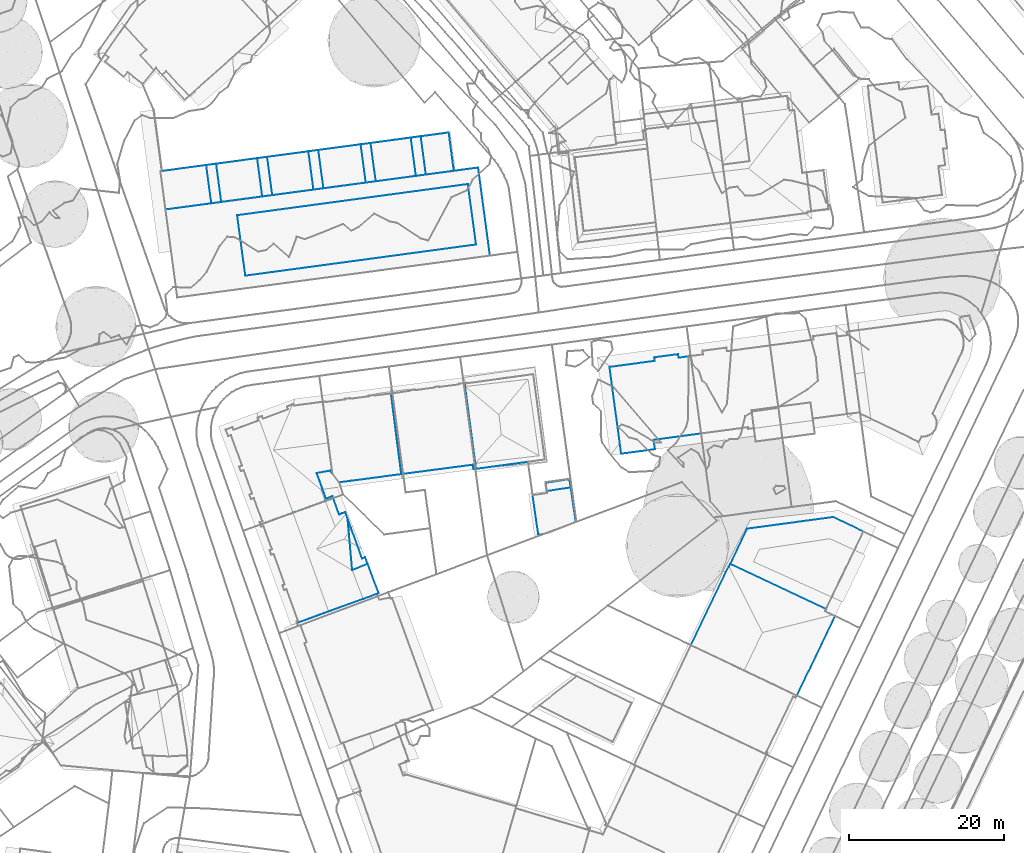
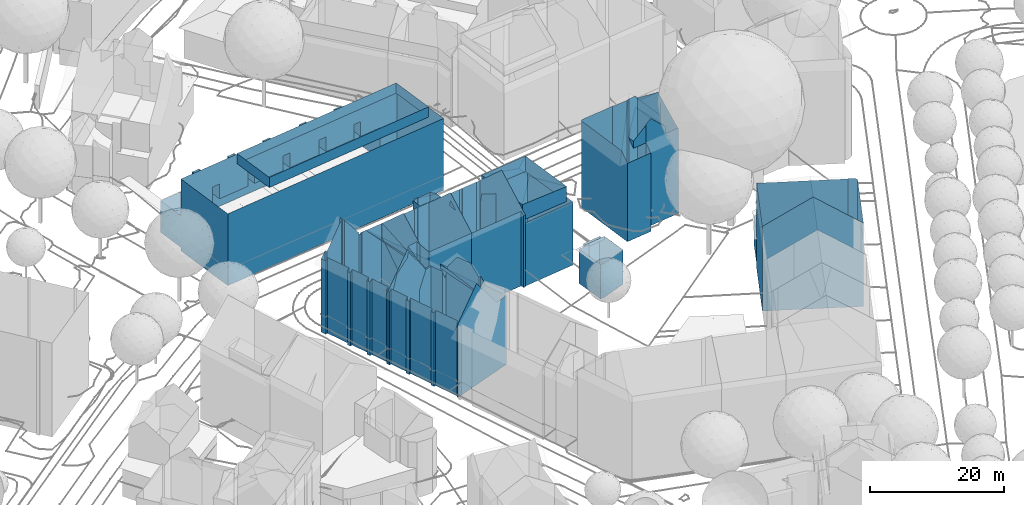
# Not in any storey, part 42 of 494: 9 walls.
"""IFC2X3 model written with IfcOpenShell, lengths in metres."""

from ifc_helpers import new_model, si_unit, frame, origin_with_axes, place, context, subcontext, project, faceted_brep, element, save


model = new_model("IFC2X3")

# Units and contexts
model_context = context("Model", 3, precision=1e-05, world=origin_with_axes())
body_context = subcontext(model_context, "Body", "Model", "MODEL_VIEW")
ifc_project = project(units=[si_unit("AREAUNIT", "SQUARE_METRE"), si_unit("LENGTHUNIT", "METRE")], contexts=[model_context])

# Walls
wall_1_placement = place(None, frame((511.1767320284, 156.3465160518, 499.6435), z_axis=(0.0, 0.0, 1.0), x_axis=(1.0, 0.0, 0.0)))
element("IfcWall", 1, at=wall_1_placement, Name="Wall 0", context=body_context, shape_type="Brep", body=[
    faceted_brep([(4.7589999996, 2.067400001, 5.7095), (4.936999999, 0.9834000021, 5.7095), (4.7589999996, 2.067400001, 0.0), (1.6939999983, 1.5859000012, 5.7095), (1.6939999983, 1.5859000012, 0.0), (5.5879999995, -3.4745999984, 6.2974), (1.3649999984, -5.058600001, 6.2974), (5.5879999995, -3.4745999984, 0.0), (4.936999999, 0.9834000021, 6.2974), (4.936999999, 0.9834000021, 0.0), (0.0, 0.0, 6.2974), (1.8829999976, 0.2714999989, 6.2974), (0.0, 0.0, 0.0), (0.7419999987, -5.1475000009, 6.2974), (0.7419999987, -5.1475000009, 0.0), (1.3649999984, -5.058600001, 0.0), (1.8449999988, 0.5322000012, 6.2974), (1.8449999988, 0.5322000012, 5.7095), (1.8829999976, 0.2714999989, 0.0), (1.8469999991, 0.5243999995, 0.0), (1.8449999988, 0.5322000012, 0.0)], [[[0, 1, 2]], [[3, 0, 4]], [[5, 6, 7]], [[1, 8, 5]], [[1, 7, 9]], [[10, 11, 12]], [[13, 10, 14]], [[6, 13, 15]], [[16, 8, 17]], [[11, 17, 18]], [[17, 11, 16]], [[19, 18, 17]], [[17, 20, 19]], [[3, 20, 17]], [[4, 20, 3]], [[1, 9, 2]], [[0, 2, 4]], [[6, 15, 7]], [[5, 7, 1]], [[11, 18, 12]], [[10, 12, 14]], [[13, 14, 15]], [[8, 1, 17]]]),
])
wall_2_placement = place(None, frame((521.1327320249, 172.9256160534, 499.9965), z_axis=(0.0, 0.0, 1.0), x_axis=(1.0, 0.0, 0.0)))
element("IfcWall", 2, at=wall_2_placement, Name="Wall 0", context=body_context, shape_type="Brep", body=[
    faceted_brep([(9.2630000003, -7.7666000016, 16.8814), (9.4190000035, -8.933600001, 16.8814), (9.4190000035, -8.933600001, 15.6275), (3.3460000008, -9.8164000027, 16.8814), (3.1810000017, -8.5811000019, 16.8814), (3.3460000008, -9.8164000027, 15.5525), (5.7130000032, -9.5020000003, 15.5515), (5.7130000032, -9.5020000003, 18.8402), (5.8660000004, -10.6377000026, 14.3306), (1.4970000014, -11.2217000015, 14.3306), (5.8660000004, -10.6377000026, 0.0), (8.9310000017, 1.2010999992, 3.9956), (8.9310000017, 1.2010999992, 0.0), (8.870000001, 1.6561999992, 15.4745), (8.870000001, 1.6561999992, 0.0), (5.7780000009, 1.2412, 15.4765), (5.7780000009, 1.2412, 0.0), (5.7040000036, -9.4326000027, 18.8402), (5.7040000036, -9.4326000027, 15.6235), (5.7130000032, -9.5020000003, 0.0), (5.7040000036, -9.4326000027, 0.0), (1.325000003, -9.9365000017, 0.0), (1.4970000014, -11.2217000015, 0.0), (0.0, 0.0, 15.8225), (0.0, 0.0, 0.0), (1.3120000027, -9.8368999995, 15.8195), (10.0990000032, 1.3583999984, 15.9835), (10.4960000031, 1.4111000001, 15.5445), (10.4960000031, 1.4111000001, 15.4685), (8.9310000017, 1.2011999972, 15.9845), (10.4960000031, 1.4111000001, 0.0), (10.0990000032, 1.3583999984, 0.0), (5.8390000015, 0.7850999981, 15.9875), (0.1640000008, 0.0223999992, 15.9915), (5.8390000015, 0.7850999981, 0.0), (11.8110000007, -8.3280999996, 15.5305), (11.8490000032, -8.6064999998, 15.5295), (11.1740000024, -3.6064999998, 0.0), (11.8490000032, -8.6064999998, 0.0), (10.5090000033, 1.3134999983, 15.5445), (11.1740000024, -3.6064999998, 19.3361), (11.7590000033, -8.6192000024, 15.6295), (6.6170000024, -9.3095999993, 19.5961), (6.6170000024, -9.3095999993, 0.0)], [[[0, 1, 2]], [[3, 4, 5]], [[6, 7, 5]], [[3, 5, 7]], [[8, 9, 10]], [[11, 12, 13]], [[13, 12, 14]], [[15, 13, 16]], [[16, 13, 14]], [[17, 7, 18]], [[18, 7, 6]], [[6, 8, 19]], [[19, 20, 18]], [[19, 8, 10]], [[19, 18, 6]], [[21, 22, 9]], [[23, 24, 21]], [[9, 25, 23]], [[9, 23, 21]], [[26, 27, 28]], [[28, 29, 26]], [[11, 29, 30]], [[11, 31, 12]], [[31, 11, 30]], [[29, 28, 30]], [[32, 24, 23]], [[23, 33, 32]], [[32, 34, 24]], [[28, 35, 30]], [[36, 37, 30]], [[36, 38, 37]], [[28, 27, 39]], [[39, 40, 35]], [[36, 30, 35]], [[35, 28, 39]], [[2, 36, 41]], [[2, 38, 36]], [[2, 1, 18]], [[18, 1, 42]], [[18, 42, 17]], [[2, 18, 43]], [[18, 20, 43]], [[2, 43, 38]], [[9, 22, 10]], [[29, 11, 13]], [[32, 16, 34]], [[15, 16, 32]]]),
])
wall_3_placement = place(None, frame((463.0307320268, 198.249816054, 500.4205), z_axis=(0.0, 0.0, 1.0), x_axis=(1.0, 0.0, 0.0)))
element("IfcWall", 3, at=wall_3_placement, Name="Wall 0", context=body_context, shape_type="Brep", body=[
    faceted_brep([(42.6259999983, -10.9238000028, 12.5258), (2.1889999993, -16.3369000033, 12.5258), (42.6259999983, -10.9238000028, -0.615), (41.1009999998, 0.4667999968, 12.5258), (41.1009999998, 0.4667999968, -0.6149), (37.300999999, 5.0058999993, 5.7815), (37.9649999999, 0.0468999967, 5.7815), (37.300999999, 5.0058999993, 0.0), (6.5870000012, -4.1562000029, 0.0), (5.9239999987, 0.7949000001, -0.041), (6.5870000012, -4.1562000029, -0.041), (6.5870000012, -4.1562000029, 8.4932), (5.9239999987, 0.7949000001, 8.4932), (6.5870000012, -4.1562000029, 5.7815), (7.2129999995, 0.9677999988, 8.4932), (7.8759999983, -3.9834000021, 5.7815), (7.2129999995, 0.9677999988, 5.7815), (7.2129999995, 0.9677999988, 0.0), (7.8759999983, -3.9834000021, 0.0), (7.2129999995, 0.9677999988, -0.041), (13.1790000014, -3.2734000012, 0.0002), (12.5159999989, 1.6796999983, 0.0002), (13.1790000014, -3.2734000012, -0.0108), (13.1790000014, -3.2734000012, 8.4932), (12.5159999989, 1.6796999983, 5.7815), (13.1790000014, -3.2734000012, 5.7815), (13.8040000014, 1.8524999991, 8.4932), (14.4679999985, -3.1006000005, 8.4932), (13.8040000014, 1.8524999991, 5.7815), (13.8040000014, 1.8524999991, 0.0), (14.4679999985, -3.1006000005, -0.011), (13.8040000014, 1.8524999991, -0.011), (40.8319999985, -9.4853000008, -0.6149), (10.9860000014, -13.5215000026, -0.6149), (40.8319999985, -9.4853000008, -0.6539), (40.8319999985, -9.4853000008, 14.3936), (10.9860000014, -13.5215000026, 14.3936), (40.8319999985, -9.4853000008, 12.5258), (39.7729999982, -1.6601999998, -0.6149), (39.7729999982, -1.6601999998, -0.6539), (39.7729999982, -1.6601999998, 14.3936), (39.7729999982, -1.6601999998, 12.5258), (9.9279999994, -5.6982000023, 14.3936), (9.9279999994, -5.6982000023, 12.5258), (9.9279999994, -5.6983000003, -0.6149), (9.9279999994, -5.6983000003, -0.6539), (10.9860000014, -13.5215000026, -0.6539), (10.9860000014, -13.5215000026, 12.5258), (26.5670000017, -1.4805000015, 8.4932), (25.9030000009, 3.4755999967, 8.4932), (26.5670000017, -1.4805000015, 5.7815), (26.5670000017, -1.4805000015, 0.0), (25.9030000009, 3.4755999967, -0.056), (26.5670000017, -1.4805000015, -0.056), (27.1909999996, 3.6483999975, 8.4932), (27.8550000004, -1.3066000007, 5.7815), (27.1909999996, 3.6483999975, 5.7815), (27.1909999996, 3.6483999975, 0.0), (27.8550000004, -1.3066000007, 0.0), (27.1909999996, 3.6483999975, -0.056), (33.0500000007, -0.6113000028, 8.4932), (32.3859999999, 4.3456999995, 8.4932), (33.0500000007, -0.6113000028, 5.7815), (33.6750000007, 4.5185999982, 8.4932), (34.3390000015, -0.4394000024, 5.7815), (33.6750000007, 4.5185999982, 5.7815), (19.8000000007, -2.3857000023, 8.4932), (19.1369999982, 2.5683999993, 8.4932), (19.8000000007, -2.3857000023, 5.7815), (19.8000000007, -2.3857000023, 0.0), (19.1369999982, 2.5683999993, -0.046), (19.8000000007, -2.3857000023, -0.046), (20.425999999, 2.7412, 8.4932), (21.0890000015, -2.2129000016, 5.7815), (20.425999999, 2.7412, 5.7815), (20.425999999, 2.7412, 0.0), (21.0890000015, -2.2129000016, 0.0), (20.425999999, 2.7412, -0.046), (0.6629999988, -4.9492000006, 5.7815), (2.1889999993, -16.3369000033, -0.6149), (0.6629999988, -4.9492000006, 0.0), (0.6629999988, -4.9492000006, -0.6149), (0.6629999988, -4.9492000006, 12.5258), (0.0, 0.0, 5.7815), (0.0, 0.0, 0.0), (7.8759999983, -3.9834000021, 8.4932), (14.4679999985, -3.1006000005, 5.7815), (7.8759999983, -3.9834000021, -0.041), (14.4679999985, -3.1006000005, 0.0), (21.0890000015, -2.2129000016, 8.4932), (27.8550000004, -1.3066000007, 8.4932), (34.3390000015, -0.4394000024, 8.4932), (21.0890000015, -2.2129000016, -0.046), (37.9649999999, 0.0468999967, 0.0), (27.8550000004, -1.3066000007, -0.056), (5.9239999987, 0.7949000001, 5.7815), (5.9239999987, 0.7949000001, 0.0), (12.5159999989, 1.6796999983, 8.4932), (19.1369999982, 2.5683999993, 5.7815), (25.9030000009, 3.4755999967, 5.7815), (25.9030000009, 3.4755999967, 0.0), (32.3859999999, 4.3456999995, 5.7815), (19.1369999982, 2.5683999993, 0.0), (12.5159999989, 1.6796999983, -0.011)], [[[0, 1, 2]], [[3, 0, 4]], [[5, 6, 7]], [[8, 9, 10]], [[11, 12, 13]], [[14, 15, 16]], [[17, 18, 19]], [[20, 21, 22]], [[23, 24, 25]], [[26, 27, 28]], [[29, 30, 31]], [[32, 33, 34]], [[35, 36, 37]], [[38, 32, 39]], [[40, 35, 41]], [[42, 40, 43]], [[44, 38, 45]], [[33, 44, 46]], [[36, 42, 47]], [[48, 49, 50]], [[51, 52, 53]], [[54, 55, 56]], [[57, 58, 59]], [[60, 61, 62]], [[63, 64, 65]], [[66, 67, 68]], [[69, 70, 71]], [[72, 73, 74]], [[75, 76, 77]], [[78, 79, 1]], [[79, 80, 81]], [[78, 80, 79]], [[1, 82, 78]], [[83, 84, 80]], [[80, 78, 83]], [[82, 11, 78]], [[11, 82, 85]], [[11, 13, 78]], [[82, 23, 85]], [[27, 23, 82]], [[66, 27, 82]], [[68, 86, 27]], [[15, 85, 25]], [[27, 66, 68]], [[82, 3, 66]], [[80, 8, 10]], [[81, 10, 87]], [[10, 81, 80]], [[81, 87, 22]], [[18, 22, 87]], [[30, 88, 69]], [[81, 30, 71]], [[22, 30, 81]], [[20, 22, 18]], [[71, 30, 69]], [[89, 48, 73]], [[90, 48, 3]], [[48, 50, 73]], [[48, 89, 3]], [[3, 91, 60]], [[91, 3, 6]], [[60, 62, 90]], [[62, 55, 90]], [[3, 4, 6]], [[3, 60, 90]], [[89, 66, 3]], [[6, 64, 91]], [[76, 51, 92]], [[81, 71, 92]], [[81, 92, 53]], [[58, 93, 94]], [[93, 81, 94]], [[81, 93, 4]], [[94, 81, 53]], [[6, 4, 93]], [[14, 16, 12]], [[95, 96, 83]], [[16, 17, 95]], [[26, 24, 97]], [[28, 98, 29]], [[29, 21, 28]], [[24, 21, 16]], [[9, 17, 19]], [[29, 31, 21]], [[74, 75, 98]], [[98, 67, 74]], [[99, 100, 74]], [[54, 56, 49]], [[63, 65, 61]], [[56, 101, 57]], [[56, 57, 99]], [[75, 70, 102]], [[52, 57, 59]], [[65, 5, 7]], [[57, 101, 7]], [[101, 65, 7]], [[1, 79, 2]], [[0, 2, 4]], [[6, 93, 7]], [[96, 9, 8]], [[12, 95, 13]], [[85, 15, 14]], [[18, 87, 19]], [[21, 103, 22]], [[97, 24, 23]], [[27, 86, 28]], [[88, 30, 29]], [[33, 46, 34]], [[36, 47, 37]], [[32, 34, 39]], [[35, 37, 41]], [[40, 41, 43]], [[38, 39, 45]], [[44, 45, 46]], [[42, 43, 47]], [[49, 99, 50]], [[100, 52, 51]], [[90, 55, 54]], [[58, 94, 59]], [[61, 101, 62]], [[91, 64, 63]], [[67, 98, 68]], [[102, 70, 69]], [[89, 73, 72]], [[76, 92, 77]], [[85, 23, 25]], [[51, 53, 92]], [[16, 95, 12]], [[96, 84, 83]], [[17, 96, 95]], [[28, 24, 26]], [[98, 102, 29]], [[21, 24, 28]], [[21, 17, 16]], [[96, 17, 9]], [[31, 103, 21]], [[75, 102, 98]], [[67, 72, 74]], [[100, 75, 74]], [[56, 99, 49]], [[65, 101, 61]], [[57, 100, 99]], [[77, 70, 75]], [[100, 57, 52]]]),
])
wall_4_placement = place(None, frame((531.6427320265, 136.9305160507, 499.2035), z_axis=(0.0, 0.0, 1.0), x_axis=(1.0, 0.0, 0.0)))
element("IfcWall", 4, at=wall_4_placement, Name="Wall 0", context=body_context, shape_type="Brep", body=[
    faceted_brep([(5.0969999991, 10.5166000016, 0.363), (17.4730000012, 4.6709000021, 0.363), (5.0969999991, 10.5166000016, 0.0), (18.4140000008, 16.5771000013, 5.7875), (22.307, 14.7080000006, 5.7875), (18.4140000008, 16.5771000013, 0.363), (7.2760000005, 15.0781000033, 5.7875), (7.2760000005, 15.0781000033, 0.363), (5.0969999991, 10.5166000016, 15.2036), (17.4730000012, 4.6709000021, 5.7874), (5.0969999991, 10.5166000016, 5.7875), (18.6519999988, 3.7627000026, 5.7874), (18.6440000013, 3.7666000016, 15.2035), (13.699000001, -6.5322999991, 15.2535), (18.6519999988, 3.7627000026, 0.363), (13.699000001, -6.5322999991, 0.0), (18.6440000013, 3.7666000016, 0.0), (4.936999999, 10.1816000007, 3.8776), (4.8920000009, 10.2031000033, 15.4775), (4.936999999, 10.1816000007, 15.5105), (4.936999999, 10.1816000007, 0.0), (4.8918000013, 10.2032000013, 0.0), (22.307, 14.7080000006, 0.363), (17.4730000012, 4.6709000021, 0.0), (17.3390000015, 4.3935000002, 0.0), (17.4730000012, 4.6709000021, 15.2035), (17.3390000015, 4.3935000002, 15.4615), (6.8680000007, -3.2743999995, 20.415), (5.6290000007, -2.6835999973, 19.5221), (7.7740000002, -3.7070999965, 19.7491), (0.0, 0.0, 15.4715), (0.0, 0.0, 0.0), (5.6290000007, -2.6835999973, 0.0), (6.9820000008, -3.3290999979, 0.0), (18.2939999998, 3.9345000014, 15.4675)], [[[0, 1, 2]], [[3, 4, 5]], [[6, 3, 7]], [[8, 9, 10]], [[11, 12, 13]], [[14, 11, 15]], [[14, 15, 16]], [[15, 11, 13]], [[17, 18, 19]], [[18, 20, 21]], [[22, 4, 1]], [[23, 1, 24]], [[4, 9, 1]], [[25, 26, 24]], [[9, 24, 1]], [[24, 9, 25]], [[27, 28, 29]], [[13, 29, 15]], [[15, 29, 28]], [[28, 30, 15]], [[30, 31, 32]], [[32, 33, 30]], [[30, 33, 15]], [[21, 31, 30]], [[21, 30, 18]], [[10, 19, 8]], [[19, 10, 17]], [[17, 6, 7]], [[6, 17, 10]], [[17, 7, 0]], [[20, 0, 2]], [[0, 20, 17]], [[16, 24, 11]], [[24, 26, 34]], [[34, 12, 11]], [[16, 11, 14]], [[11, 24, 34]], [[1, 23, 2]], [[4, 22, 5]], [[3, 5, 7]], [[25, 9, 8]], [[20, 18, 17]]]),
])
wall_5_placement = place(None, frame((475.9607320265, 152.5359160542, 499.4976), z_axis=(0.0, 0.0, 1.0), x_axis=(1.0, 0.0, 0.0)))
element("IfcWall", 5, at=wall_5_placement, Name="Wall 0", context=body_context, shape_type="Brep", body=[
    faceted_brep([(3.1640000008, -7.7363000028, -0.0001), (3.1640000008, -7.7363000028, 13.7726), (1.7280000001, -3.7851000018, 0.0), (2.8570000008, -7.8486000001, 13.3947), (2.8570000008, -7.8486000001, -0.0001), (3.0800000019, -8.4716000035, -0.0001), (3.0800000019, -8.4716000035, 13.3907), (3.3900000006, -8.3584000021, 13.7726), (3.3900000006, -8.3584000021, -0.0001), (4.8859999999, -12.4658000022, 13.7726), (4.8859999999, -12.4658000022, -0.0001), (4.675999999, -12.5449000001, 13.5136), (4.675999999, -12.5449000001, -0.0001), (4.7390000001, -12.7187000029, -0.0001), (4.7390000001, -12.7187000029, 6.7563), (4.7390000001, -12.7187000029, 13.5126), (0.1050000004, -0.2890000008, 13.3947), (0.0529999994, -0.1474000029, 5.6504), (0.1050000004, -0.2890000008, 0.0), (0.0, 0.0, 0.0), (0.4149999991, -0.1757000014, 0.0), (0.4149999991, -0.1757000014, 13.7766), (1.5159999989, -3.2021000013, 13.7756), (1.5159999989, -3.2021000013, 0.0), (1.2060000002, -3.3154000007, 13.3937), (1.2060000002, -3.3154000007, 0.0), (1.4180000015, -3.8984000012, 0.0), (1.4180000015, -3.8984000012, 13.3937), (1.7280000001, -3.7851000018, 13.7756), (9.4239999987, 3.4130999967, 12.5967), (9.7309999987, 2.5634999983, 5.8984), (9.4239999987, 3.4130999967, 0.0), (10.1799999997, 1.3242999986, 12.5807), (10.1799999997, 1.3242999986, 0.0), (11.2809999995, 0.8017999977, 0.0), (11.2809999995, 0.8017999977, 0.0669), (11.870000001, -5.8955000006, -0.0001), (11.870000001, -5.8955000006, 0.0669), (13.8729999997, -5.0605000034, 12.6027), (15.3020000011, -8.875, 12.6027), (13.8729999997, -5.0605000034, 0.0669), (15.3020000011, -8.875, -0.0001), (13.8729999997, -5.0605000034, -0.0001), (13.5419999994, -4.2285000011, 13.9276), (13.5419999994, -4.2285000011, 0.0669), (13.8729999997, -5.0605000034, 12.9307), (11.870000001, -5.8955000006, 12.5307), (11.870000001, -5.8955000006, 12.7847), (7.2580000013, -3.1503000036, 17.7112), (7.2580000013, -3.1503000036, 16.9023), (8.8300000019, -1.2646000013, 14.1886), (11.0599999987, 1.4120999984, 13.0807), (11.0599999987, 1.4120999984, 12.5957), (10.6689999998, 0.9423999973, 12.5767), (9.6680000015, -0.2578000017, 12.5737), (10.5769999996, 1.4677999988, 12.5797), (10.9860000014, 1.6162, 12.5957), (10.5769999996, 1.4677999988, 0.0), (10.9860000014, 1.6162, 0.0), (13.1519999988, -4.3691000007, 0.0669), (13.1519999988, -4.3691000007, 13.9966), (13.2010000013, -4.3515000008, 13.9976), (13.2010000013, -4.3515000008, 0.0669), (10.5179999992, -10.6123000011, 16.1894), (8.8150000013, -11.2343000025, 18.5302), (15.0579999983, -8.9638000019, 12.6027), (13.2730000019, -9.6113000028, 12.5027), (15.0579999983, -8.9638000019, -0.0001), (8.8150000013, -11.2343000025, -0.0001), (10.5179999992, -10.6123000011, -0.0001), (13.2730000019, -9.6113000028, -0.0001), (0.0, 0.0, 13.3957), (1.7479999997, 0.6328999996, 15.5465), (4.2050000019, 1.5224999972, 0.0), (4.2050000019, 1.5224999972, 18.5252), (4.4210000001, 1.6005999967, 18.2632), (1.7479999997, 0.6327999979, 0.0), (4.4210000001, 1.6005999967, 0.0), (6.4640000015, 2.3408999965, 0.0), (6.4640000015, 2.3408999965, 15.4795), (8.3819999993, 3.0361999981, 12.5987), (8.3819999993, 3.0361999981, 0.0), (11.1600000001, 1.1338, 13.5437), (11.7259999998, -0.4287, 0.0669), (11.7259999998, -0.4287, 15.7334), (12.5850000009, -2.8017000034, 0.0669), (12.5850000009, -2.8017000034, 15.8534), (13.1119999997, -4.2578000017, 14.1386)], [[[0, 1, 2]], [[3, 1, 4]], [[1, 0, 4]], [[3, 5, 6]], [[7, 5, 8]], [[9, 7, 10]], [[7, 8, 10]], [[9, 10, 11]], [[12, 11, 10]], [[13, 14, 12]], [[15, 12, 14]], [[16, 17, 18]], [[17, 19, 18]], [[20, 21, 18]], [[16, 18, 21]], [[22, 21, 23]], [[20, 23, 21]], [[24, 22, 23]], [[25, 24, 23]], [[26, 27, 24]], [[2, 28, 26]], [[28, 27, 26]], [[29, 30, 31]], [[32, 30, 29]], [[30, 32, 33]], [[30, 33, 31]], [[34, 35, 36]], [[37, 36, 35]], [[38, 39, 40]], [[40, 41, 42]], [[43, 38, 44]], [[45, 38, 43]], [[36, 37, 40]], [[40, 42, 36]], [[46, 47, 48]], [[48, 49, 46]], [[45, 47, 38]], [[48, 50, 49]], [[50, 48, 51]], [[51, 52, 53]], [[54, 50, 53]], [[53, 50, 51]], [[33, 32, 55]], [[55, 56, 57]], [[57, 56, 58]], [[57, 33, 55]], [[59, 60, 61]], [[59, 61, 43]], [[62, 59, 43]], [[44, 62, 43]], [[63, 64, 15]], [[41, 39, 65]], [[66, 63, 15]], [[66, 67, 65]], [[66, 15, 14]], [[14, 13, 68]], [[14, 68, 69]], [[65, 67, 41]], [[70, 66, 69]], [[70, 67, 66]], [[14, 69, 66]], [[19, 71, 72]], [[73, 72, 74]], [[75, 73, 74]], [[76, 19, 72]], [[72, 73, 76]], [[75, 77, 73]], [[78, 79, 80]], [[81, 80, 29]], [[77, 79, 78]], [[81, 29, 31]], [[81, 78, 80]], [[79, 77, 75]], [[51, 82, 52]], [[35, 52, 83]], [[56, 52, 58]], [[35, 34, 58]], [[52, 35, 58]], [[52, 82, 84]], [[85, 84, 86]], [[85, 86, 87]], [[85, 87, 60]], [[83, 84, 85]], [[59, 85, 60]], [[84, 83, 52]], [[28, 2, 1]], [[3, 4, 5]], [[6, 5, 7]], [[11, 12, 15]], [[71, 17, 16]], [[17, 71, 19]], [[26, 24, 25]], [[39, 41, 40]], [[38, 40, 44]], [[47, 46, 38]]]),
])
wall_6_placement = place(None, frame((502.3847320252, 170.8484160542, 499.6645), z_axis=(0.0, 0.0, 1.0), x_axis=(1.0, 0.0, 0.0)))
element("IfcWall", 6, at=wall_6_placement, Name="Wall 0", context=body_context, shape_type="Brep", body=[
    faceted_brep([(8.1840000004, 0.5068999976, 14.3977), (9.6030000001, -9.3867000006, 14.3126), (8.1840000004, 0.5068999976, 11.5429), (9.6030000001, -9.3867000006, 11.5619), (9.1490000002, -9.4404000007, 11.5609), (1.3839999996, -10.3593000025, 14.4626), (1.3839999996, -10.3593000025, 11.5409), (0.0580000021, -0.4316000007, 11.5229), (0.0580000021, -0.4316000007, 14.3047), (7.1860000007, 0.3925999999, 11.5399), (10.3690000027, -9.8964000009, 0.0), (8.8770000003, 1.1435999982, 11.5439), (9.9960000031, -7.1357000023, 11.5599), (8.8770000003, 1.1435999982, 8.6522), (8.8770000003, 1.1435999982, 5.7615), (8.8770000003, 1.1435999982, 0.0), (10.3690000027, -9.8964000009, 2.8907), (10.3690000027, -9.8964000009, 5.7825), (0.1810000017, -0.0556000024, 5.7615), (0.1700000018, 0.0244999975, 11.5219), (0.1810000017, -0.0556000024, 11.5229), (0.1810000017, -0.0556000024, 0.0), (0.1700000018, 0.0244999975, 0.0), (0.0, 9.9998e-05, 11.5219), (0.0, 9.9998e-05, 8.6412), (0.0, 0.0, 5.7605), (0.0, 0.0, 0.0), (10.3690000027, -9.8964000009, 8.6732), (1.4840000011, -11.1054000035, 11.5429), (1.4840000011, -11.1054000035, 0.0), (8.0549999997, -10.2119000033, 11.5589), (8.0549999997, -10.2119000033, 0.0), (10.3690000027, -9.8964000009, 11.5649), (0.7130000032, -5.3320000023, 14.3827), (1.3839999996, -10.3593000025, 0.0), (0.7130000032, -5.3320000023, 0.0), (0.0580000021, -0.4316000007, 0.0), (2.6920000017, 0.2900999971, 11.5289), (2.6920000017, 0.2900999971, 0.0), (7.881000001, 1.0058999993, 11.5409), (7.881000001, 1.0058999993, 0.0)], [[[0, 1, 2]], [[3, 1, 4]], [[4, 5, 6]], [[5, 4, 1]], [[7, 8, 9]], [[9, 0, 2]], [[0, 9, 8]], [[10, 11, 12]], [[13, 10, 14]], [[15, 14, 10]], [[16, 12, 17]], [[18, 19, 20]], [[19, 21, 22]], [[23, 22, 24]], [[25, 22, 26]], [[23, 19, 22]], [[17, 27, 28]], [[16, 17, 29]], [[28, 27, 30]], [[17, 28, 29]], [[10, 16, 31]], [[31, 16, 29]], [[27, 32, 30]], [[6, 5, 33]], [[29, 6, 34]], [[6, 29, 28]], [[35, 34, 6]], [[6, 33, 35]], [[33, 25, 35]], [[7, 23, 24]], [[8, 7, 33]], [[25, 36, 35]], [[33, 24, 25]], [[25, 26, 36]], [[33, 7, 24]], [[37, 18, 20]], [[38, 18, 14]], [[38, 21, 18]], [[39, 11, 13]], [[37, 39, 13]], [[15, 40, 14]], [[40, 38, 14]], [[37, 13, 14]], [[14, 18, 37]], [[1, 3, 2]], [[11, 10, 13]], [[32, 27, 12]], [[27, 17, 12]], [[10, 12, 16]], [[18, 21, 19]], [[25, 24, 22]]]),
])
wall_7_placement = place(None, frame((484.0377320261, 168.4207160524, 499.5076), z_axis=(0.0, 0.0, 1.0), x_axis=(1.0, 0.0, 0.0)))
element("IfcWall", 7, at=wall_7_placement, Name="Wall 0", context=body_context, shape_type="Brep", body=[
    faceted_brep([(2.1359999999, -10.4189000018, 13.6186), (1.251000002, -9.3192999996, 0.0), (2.1359999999, -10.4189000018, 0.0), (3.5210000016, 0.3856999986, 0.0), (3.5100000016, 0.4648000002, 0.0), (3.5100000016, 0.4648000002, 13.2597), (3.5210000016, 0.3856999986, 13.3317), (2.8850000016, 0.3817999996, 0.0), (2.8850000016, 0.3817999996, 13.2617), (2.8949999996, 0.3027000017, 0.0), (2.8949999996, 0.3027000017, 13.3337), (1.6170000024, 0.1338, 13.3377), (0.3379999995, -0.0361000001, 13.3417), (0.3379999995, -0.0361000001, 0.0), (0.3280000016, 0.0430000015, 0.0), (0.3280000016, 0.0430000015, 13.2687), (0.0, 0.0, 13.2697), (0.1440000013, 0.0185999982, 13.2687), (0.0, 0.0, 9.952), (0.0, 0.0, 6.6353), (0.0, 0.0, 3.3177), (0.0, 0.0, 0.0), (9.3680000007, -1.5967000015, 15.7974), (9.1700000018, -1.6893999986, 0.3679), (9.3680000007, -1.5967000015, 0.3679), (6.068, 0.7842000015, 15.0875), (6.0659999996, 0.8027000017, 15.0785), (6.0760000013, 0.7236000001, 0.0), (9.1700000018, -1.6893999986, 15.8574), (6.0, -1.1035000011, 15.0195), (6.0, -1.1035000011, 14.9625), (5.9869999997, -0.996100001, 14.8635), (5.7919999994, 0.6856000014, 15.0105), (5.7919999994, 0.6856000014, 13.3257), (10.1469999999, -9.3623000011, 13.6296), (3.6469999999, -10.2197000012, 13.6206), (10.1469999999, -9.3623000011, 0.0), (3.6469999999, -10.2197000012, 0.0), (6.0760000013, 0.7236000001, 15.0875), (0.0170000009, -0.1240000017, 13.3837), (0.7120000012, -5.3027000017, 18.0912), (1.251000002, -9.3192999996, 14.6436), (0.7120000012, -5.3027000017, 0.0), (8.819000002, 1.0683999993, 0.0), (6.7010000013, 0.8066000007, 0.0), (8.819000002, 1.0683999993, 0.3679), (6.7010000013, 0.8066000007, 15.1145), (9.0109999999, 1.0918000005, 15.1255), (9.0109999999, 1.0918000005, 0.3679), (6.6909999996, 0.8856999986, 0.0), (6.6909999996, 0.8856999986, 15.0795), (6.0659999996, 0.8027000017, 0.0), (9.2309999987, -0.5683999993, 0.3679), (9.2120000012, -0.4219000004, 0.3679), (9.2120000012, -0.4219000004, 15.7874), (9.4840000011, -4.1561999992, 18.0972), (9.8790000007, -7.2606999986, 15.4335), (9.1400000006, -1.4560000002, 0.0), (9.8790000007, -7.2606999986, 0.0), (9.4840000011, -4.1561999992, 0.0)], [[[0, 1, 2]], [[3, 4, 5]], [[5, 6, 3]], [[7, 8, 4]], [[7, 9, 10]], [[10, 8, 7]], [[10, 9, 11]], [[11, 9, 12]], [[12, 9, 13]], [[14, 15, 12]], [[12, 13, 14]], [[16, 17, 18]], [[19, 17, 20]], [[15, 14, 17]], [[17, 14, 21]], [[22, 23, 24]], [[25, 26, 27]], [[28, 29, 30]], [[30, 29, 31]], [[31, 32, 33]], [[32, 31, 29]], [[34, 35, 36]], [[36, 35, 37]], [[37, 0, 2]], [[0, 37, 35]], [[3, 6, 27]], [[32, 38, 33]], [[6, 33, 27]], [[27, 33, 38]], [[1, 39, 18]], [[40, 39, 41]], [[41, 39, 1]], [[39, 16, 18]], [[1, 19, 42]], [[42, 19, 20]], [[20, 21, 42]], [[19, 1, 18]], [[43, 44, 45]], [[45, 44, 46]], [[45, 47, 48]], [[47, 45, 46]], [[44, 49, 50]], [[50, 46, 44]], [[38, 25, 27]], [[51, 27, 26]], [[51, 26, 49]], [[50, 49, 26]], [[52, 53, 22]], [[24, 52, 22]], [[53, 48, 47]], [[54, 22, 47]], [[47, 22, 53]], [[28, 55, 56]], [[28, 56, 34]], [[43, 45, 57]], [[23, 28, 34]], [[34, 58, 59]], [[34, 59, 23]], [[57, 23, 59]], [[23, 57, 45]], [[58, 34, 36]], [[41, 1, 0]], [[5, 4, 8]], [[19, 18, 17]], [[17, 21, 20]], [[28, 23, 22]]]),
])
wall_8_placement = place(None, frame((492.8567320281, 169.4891160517, 499.5076), z_axis=(0.0, 0.0, 1.0), x_axis=(1.0, 0.0, 0.0)))
element("IfcWall", 8, at=wall_8_placement, Name="Wall 0", context=body_context, shape_type="Brep", body=[
    faceted_brep([(0.6649999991, -5.2245999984, 18.0972), (0.3209999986, -2.5244999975, 15.6455), (0.6649999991, -5.2245999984, 0.0), (0.0, 0.0, 13.3347), (0.1919999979, 0.0234000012, 13.3357), (0.0, 0.0, 0.0), (0.3209999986, -2.5243999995, 0.0), (9.5859999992, 0.9277000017, 13.6147), (10.2410000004, -3.9726999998, 0.0), (9.5859999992, 0.9277000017, 0.0), (3.106999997, 0.4306000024, 0.0), (3.106999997, 0.4306000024, 13.3087), (3.6909999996, 0.5078000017, 13.3067), (3.0969999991, 0.5097000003, 13.2347), (2.481999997, 0.3476000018, 13.3107), (2.4719999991, 0.4266999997, 13.2377), (2.4719999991, 0.4266999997, 0.0), (2.481999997, 0.3476000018, 0.0), (8.8259999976, 1.2685000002, 13.2027), (8.8259999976, 1.2685000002, 0.0), (8.8369999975, 1.1884000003, 13.2797), (8.8369999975, 1.1884000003, 0.0), (6.2479999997, 0.8465999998, 0.0), (6.237999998, 0.9257000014, 13.2167), (6.237999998, 0.9257000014, 0.0), (5.6339999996, 0.8456999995, 0.0), (5.6439999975, 0.7666000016, 13.2957), (5.6439999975, 0.7666000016, 0.0), (4.6879999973, 0.6396000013, 4.9845), (9.5279999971, 1.3593000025, 0.0), (9.5279999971, 1.3593000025, 13.2007), (9.4109999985, 1.3436999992, 0.0), (9.4109999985, 1.3436999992, 13.2017), (3.0969999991, 0.5097000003, 0.0), (1.3279999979, -10.4307000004, 13.6296), (1.3279999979, -10.4307000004, 0.0), (1.5719999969, -10.3984999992, 0.0), (8.3379999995, -9.504900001, 13.6406), (3.8310000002, -10.0995999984, 13.6336), (10.5939999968, -9.2071000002, -0.0001), (10.5939999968, -9.2071000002, 13.6436), (10.6739999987, -9.7919999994, -0.0001), (10.6739999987, -9.7919999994, 13.1417), (11.0119999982, -9.746100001, 13.1427), (11.0119999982, -9.746100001, -0.0001), (10.9119999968, -9.0, 13.7836), (10.9119999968, -9.0, -0.0001), (10.2410000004, -3.9726999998, 18.1042), (1.0599999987, -8.3290999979, 15.4335), (1.0599999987, -8.3290999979, 0.0), (0.1919999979, 0.0234000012, 0.0), (6.2479999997, 0.8465999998, 13.2927), (5.6339999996, 0.8456999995, 13.2207)], [[[0, 1, 2]], [[3, 4, 5]], [[1, 5, 6]], [[3, 5, 1]], [[7, 8, 9]], [[10, 11, 12]], [[11, 10, 13]], [[14, 15, 16]], [[17, 14, 16]], [[18, 19, 20]], [[20, 21, 22]], [[23, 22, 24]], [[23, 24, 25]], [[26, 25, 27]], [[26, 27, 28]], [[28, 27, 10]], [[29, 30, 7]], [[9, 29, 7]], [[31, 30, 29]], [[31, 32, 30]], [[32, 19, 18]], [[13, 10, 33]], [[13, 16, 15]], [[13, 33, 16]], [[34, 35, 36]], [[37, 38, 36]], [[39, 40, 37]], [[36, 39, 37]], [[34, 36, 38]], [[41, 42, 40]], [[40, 39, 41]], [[42, 41, 43]], [[43, 41, 44]], [[45, 44, 46]], [[43, 44, 45]], [[47, 45, 8]], [[35, 34, 48]], [[49, 35, 48]], [[48, 2, 49]], [[1, 6, 2]], [[4, 50, 5]], [[47, 8, 7]], [[50, 4, 17]], [[17, 4, 14]], [[20, 19, 21]], [[22, 51, 20]], [[23, 51, 22]], [[52, 23, 25]], [[52, 25, 26]], [[12, 26, 28]], [[12, 28, 10]], [[32, 31, 19]], [[45, 46, 8]], [[0, 2, 48]]]),
])
wall_9_placement = place(None, frame((471.492732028, 164.8240160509, 499.4976), z_axis=(0.0, 0.0, 1.0), x_axis=(1.0, 0.0, 0.0)))
element("IfcWall", 9, at=wall_9_placement, Name="Wall 0", context=body_context, shape_type="Brep", body=[
    faceted_brep([(4.6769999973, 1.7657000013, 17.9183), (4.8090000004, 1.4151000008, 17.9143), (4.6769999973, 1.7657000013, 4.4796), (4.8090000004, 1.4151000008, 0.0), (4.6769999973, 1.7657000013, 0.0), (8.5969999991, 3.246100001, 0.0), (8.5969999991, 3.246100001, 12.8647), (8.7479999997, 3.3027999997, 0.01), (7.9039999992, 2.9834000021, 13.7587), (7.9039999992, 2.9834000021, 0.0), (8.0359999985, 2.6328000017, 0.0), (8.0359999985, 2.6328000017, 13.7547), (13.7969999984, -8.6122999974, 0.0), (13.7969999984, -8.6122999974, 12.5987), (13.8919999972, -8.875, 12.5967), (13.8919999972, -8.875, 3.1477), (13.8919999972, -8.875, 0.0), (12.9519999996, -8.9178999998, 0.0), (12.9519999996, -8.9178999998, 12.6007), (12.5149999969, -7.7030999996, 12.6097), (12.367999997, -7.2958999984, 2.2987), (12.5149999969, -7.7030999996, 0.0), (1.9560000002, -5.3778999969, 13.3997), (1.743999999, -4.7949000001, 0.0), (1.9560000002, -5.3778999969, 0.0), (2.3219999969, -5.245099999, 0.0), (2.3219999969, -5.245099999, 13.8506), (3.4189999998, -8.2626999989, 0.0), (3.4189999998, -8.2626999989, 13.8486), (3.0529999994, -8.3954999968, 0.0), (3.0529999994, -8.3954999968, 13.3987), (3.2679999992, -8.9872999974, 0.0), (3.2679999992, -8.9872999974, 13.3977), (3.6349999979, -8.8544999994, 13.8496), (4.7249999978, -11.8524999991, 13.8476), (4.7249999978, -11.8524999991, 0.0), (4.3579999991, -11.985299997, 13.3957), (4.3579999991, -11.985299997, 0.0), (4.4679999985, -12.2880999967, 0.0), (4.4679999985, -12.2880999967, 6.6933), (4.0779999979, 1.5401000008, 18.3612), (4.0779999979, 1.5401000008, 0.0), (4.2099999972, 1.188500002, 0.0), (0.9829999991, -0.0301999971, 0.0), (0.9829999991, -0.0301999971, 14.4346), (2.193, 0.4268000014, 15.9095), (3.4029999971, 0.8838, 17.3843), (0.8499999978, 0.3203000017, 14.4276), (0.8499999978, 0.3203000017, 0.0), (0.0, 0.0, 0.0), (0.0, 0.0, 13.3917), (0.3079999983, -0.8486000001, 0.0), (0.3079999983, -0.8486000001, 13.3937), (0.674999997, -0.7137999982, 13.8397), (0.674999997, -0.7137999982, 0.0), (2.1099999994, -4.6620999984, 13.8496), (2.1099999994, -4.6620999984, 10.387), (2.1099999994, -4.6620999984, 0.0), (4.2079999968, 1.5888999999, 18.5192), (4.2520000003, 1.6055000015, 18.4662), (4.2449999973, 1.6026000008, 0.0), (1.743999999, -4.7949000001, 13.4007), (2.061999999, -4.6796999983, 13.7927), (12.8499999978, -9.2518999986, 0.0), (10.932, -9.9472000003, 0.0), (8.8889999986, -10.6875, 0.0), (8.6730000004, -10.7655999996, 0.0), (6.2159999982, -11.6551999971, 0.0), (13.8919999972, -8.875, 9.448), (12.8499999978, -9.2518999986, 12.5987), (6.2159999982, -11.6551999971, 15.5465), (10.932, -9.9472000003, 15.4795), (8.8889999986, -10.6875, 18.2632), (8.6730000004, -10.7655999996, 18.5252), (4.4679999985, -12.2880999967, 10.047), (4.4679999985, -12.2880999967, 13.3957), (12.1409999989, -6.6639999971, 2.8297), (12.5149999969, -7.7030999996, 13.1227), (11.7669999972, -5.625, 0.01), (13.7960000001, -5.7225999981, 10.8969), (13.7960000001, -5.7225999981, 14.6536), (13.4649999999, -5.3104999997, 0.01), (13.4649999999, -5.3104999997, 15.0375), (13.7960000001, -5.7225999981, 7.1403), (13.7960000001, -5.7225999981, 0.01), (8.7479999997, 3.3027999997, 13.0967), (8.8090000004, 3.1016000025, 13.2837), (8.8090000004, 3.1016000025, 0.01), (8.5969999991, 3.246100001, 13.1307), (11.7669999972, -5.625, 14.9575), (12.106999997, 3.5391000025, 13.2807), (12.5449999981, 3.5967000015, 13.2797), (12.106999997, 3.5391000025, 0.01), (12.5449999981, 3.5967000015, 0.01), (12.561999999, 3.4726999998, 0.01), (13.2569999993, -1.7060000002, 0.01), (12.561999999, 3.4726999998, 13.3937), (13.2569999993, -1.7060000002, 18.1012), (12.2579999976, -7.7372999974, 13.1227), (6.1339999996, -2.6376999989, 18.0962), (12.2579999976, -7.7372999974, 12.6107), (3.6349999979, -8.8544999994, 0.0), (4.2099999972, 1.188500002, 18.3672)], [[[0, 1, 2]], [[1, 3, 4]], [[5, 6, 7]], [[8, 6, 9]], [[9, 6, 5]], [[10, 11, 9]], [[3, 1, 11]], [[12, 13, 14]], [[15, 16, 12]], [[17, 18, 13]], [[18, 17, 19]], [[19, 17, 20]], [[20, 17, 21]], [[22, 23, 24]], [[25, 26, 24]], [[22, 24, 26]], [[25, 27, 28]], [[26, 25, 28]], [[29, 30, 27]], [[28, 27, 30]], [[30, 29, 31]], [[32, 31, 33]], [[34, 35, 36]], [[37, 36, 35]], [[38, 39, 37]], [[39, 36, 37]], [[40, 41, 42]], [[43, 44, 45]], [[45, 46, 43]], [[46, 42, 43]], [[47, 43, 48]], [[49, 50, 48]], [[50, 47, 48]], [[51, 52, 49]], [[50, 49, 52]], [[53, 52, 54]], [[52, 51, 54]], [[55, 53, 56]], [[53, 54, 57]], [[40, 58, 59]], [[40, 59, 0]], [[0, 2, 40]], [[40, 2, 41]], [[60, 41, 2]], [[2, 4, 60]], [[56, 61, 62]], [[56, 62, 55]], [[57, 23, 56]], [[56, 23, 61]], [[63, 16, 15]], [[63, 15, 64]], [[15, 39, 64]], [[65, 64, 39]], [[39, 66, 65]], [[39, 38, 67]], [[39, 67, 66]], [[15, 68, 39]], [[14, 69, 68]], [[70, 71, 72]], [[69, 71, 70]], [[73, 70, 72]], [[68, 74, 39]], [[74, 70, 75]], [[74, 68, 69]], [[69, 70, 74]], [[76, 77, 20]], [[78, 76, 21]], [[77, 19, 20]], [[20, 21, 76]], [[79, 80, 81]], [[81, 80, 82]], [[83, 81, 84]], [[7, 85, 86]], [[86, 87, 7]], [[6, 88, 85]], [[6, 85, 7]], [[78, 81, 82]], [[78, 82, 89]], [[90, 91, 92]], [[92, 87, 86]], [[92, 91, 93]], [[92, 86, 90]], [[93, 91, 94]], [[94, 83, 95]], [[84, 95, 83]], [[83, 94, 91]], [[96, 97, 80]], [[83, 91, 79]], [[80, 79, 96]], [[79, 91, 96]], [[98, 99, 100]], [[77, 100, 19]], [[99, 88, 6]], [[1, 4, 2]], [[11, 8, 9]], [[11, 10, 3]], [[14, 68, 12]], [[68, 15, 12]], [[17, 13, 12]], [[61, 23, 22]], [[31, 32, 30]], [[33, 31, 101]], [[35, 34, 101]], [[33, 101, 34]], [[75, 36, 74]], [[39, 74, 36]], [[42, 102, 40]], [[102, 42, 46]], [[44, 43, 47]], [[57, 56, 53]], [[77, 76, 78]], [[89, 77, 78]], [[79, 81, 83]], [[98, 100, 77]]]),
])

save(model, "model.ifc")
